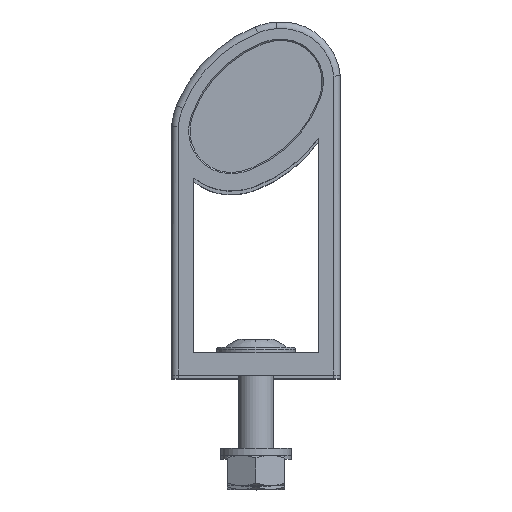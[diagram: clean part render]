
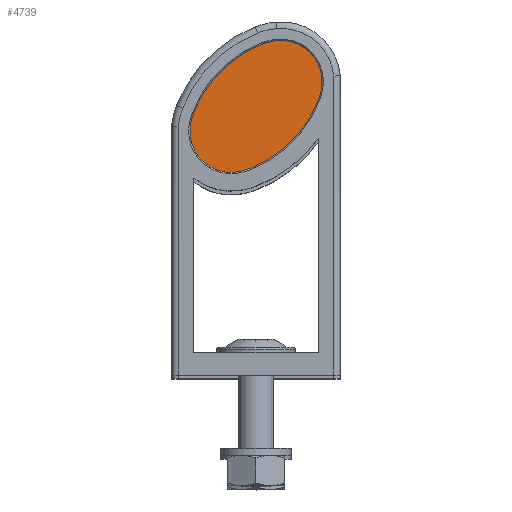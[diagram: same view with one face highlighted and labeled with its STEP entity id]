
A CAD part, top view. The second image highlights one B-rep face of the part: STEP entity #4739.
In plain terms, the highlighted planar face has unit normal (0, 0, 1).
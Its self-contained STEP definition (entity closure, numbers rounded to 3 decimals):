
#249 = DIRECTION ( 'NONE',  ( -1., 0., 0. ) ) ;
#428 = CARTESIAN_POINT ( 'NONE',  ( -4.887, 45.675, 511. ) ) ;
#439 = AXIS2_PLACEMENT_3D ( 'NONE', #2074, #1509, #3894 ) ;
#465 = ORIENTED_EDGE ( 'NONE', *, *, #5969, .F. ) ;
#485 = CARTESIAN_POINT ( 'NONE',  ( -14.825, 55.613, 511. ) ) ;
#656 = CARTESIAN_POINT ( 'NONE',  ( -5.657, 54.843, 511. ) ) ;
#686 = ORIENTED_EDGE ( 'NONE', *, *, #6940, .F. ) ;
#992 = DIRECTION ( 'NONE',  ( 0., 0., -1. ) ) ;
#1166 = AXIS2_PLACEMENT_3D ( 'NONE', #2375, #4736, #7106 ) ;
#1282 = DIRECTION ( 'NONE',  ( -1., 0., 0. ) ) ;
#1509 = DIRECTION ( 'NONE',  ( 0., 0., -1. ) ) ;
#1640 = AXIS2_PLACEMENT_3D ( 'NONE', #6439, #7071, #7609 ) ;
#1711 = VERTEX_POINT ( 'NONE', #4079 ) ;
#1726 = EDGE_LOOP ( 'NONE', ( #5719, #3900, #465, #6904, #4307, #3614, #5375, #6402, #686 ) ) ;
#1917 = CIRCLE ( 'NONE', #2928, 9.2 ) ;
#2053 = CIRCLE ( 'NONE', #5285, 27.2 ) ;
#2067 = EDGE_CURVE ( 'NONE', #7465, #4247, #3310, .T. ) ;
#2074 = CARTESIAN_POINT ( 'NONE',  ( -5.929, 58.082, 511. ) ) ;
#2136 = CARTESIAN_POINT ( 'NONE',  ( -14.857, 54.843, 511. ) ) ;
#2153 = EDGE_CURVE ( 'NONE', #4247, #6903, #1917, .T. ) ;
#2336 = CIRCLE ( 'NONE', #7657, 27.2 ) ;
#2375 = CARTESIAN_POINT ( 'NONE',  ( -2.418, 54.571, 511. ) ) ;
#2456 = CARTESIAN_POINT ( 'NONE',  ( -5.657, 54.843, 511. ) ) ;
#2481 = CARTESIAN_POINT ( 'NONE',  ( 2.418, 66.429, 511. ) ) ;
#2660 = EDGE_CURVE ( 'NONE', #7683, #3699, #6357, .T. ) ;
#2928 = AXIS2_PLACEMENT_3D ( 'NONE', #5951, #5405, #3095 ) ;
#2935 = DIRECTION ( 'NONE',  ( -1., 0., 0. ) ) ;
#3001 = VERTEX_POINT ( 'NONE', #4413 ) ;
#3002 = DIRECTION ( 'NONE',  ( -1., 0., 0. ) ) ;
#3095 = DIRECTION ( 'NONE',  ( -1., 0., 0. ) ) ;
#3133 = EDGE_CURVE ( 'NONE', #3699, #3001, #3424, .T. ) ;
#3295 = DIRECTION ( 'NONE',  ( 0., 0., -1. ) ) ;
#3310 = CIRCLE ( 'NONE', #5895, 12.45 ) ;
#3323 = CIRCLE ( 'NONE', #5516, 12.45 ) ;
#3344 = EDGE_CURVE ( 'NONE', #1711, #3373, #2053, .T. ) ;
#3348 = VERTEX_POINT ( 'NONE', #428 ) ;
#3373 = VERTEX_POINT ( 'NONE', #7536 ) ;
#3424 = CIRCLE ( 'NONE', #1166, 12.45 ) ;
#3592 = DIRECTION ( 'NONE',  ( 0., 0., -1. ) ) ;
#3614 = ORIENTED_EDGE ( 'NONE', *, *, #7640, .F. ) ;
#3662 = CARTESIAN_POINT ( 'NONE',  ( 14.825, 65.387, 511. ) ) ;
#3699 = VERTEX_POINT ( 'NONE', #485 ) ;
#3894 = DIRECTION ( 'NONE',  ( -1., 0., 0. ) ) ;
#3900 = ORIENTED_EDGE ( 'NONE', *, *, #3344, .F. ) ;
#4079 = CARTESIAN_POINT ( 'NONE',  ( 14.009, 61.884, 511. ) ) ;
#4247 = VERTEX_POINT ( 'NONE', #7384 ) ;
#4307 = ORIENTED_EDGE ( 'NONE', *, *, #2067, .F. ) ;
#4357 = PLANE ( 'NONE',  #1640 ) ;
#4413 = CARTESIAN_POINT ( 'NONE',  ( -14.009, 59.116, 511. ) ) ;
#4734 = CARTESIAN_POINT ( 'NONE',  ( 5.929, 62.918, 511. ) ) ;
#4736 = DIRECTION ( 'NONE',  ( 0., 0., -1. ) ) ;
#4739 = ADVANCED_FACE ( 'NONE', ( #7398 ), #4357, .T. ) ;
#4828 = DIRECTION ( 'NONE',  ( 0., 0., -1. ) ) ;
#4964 = DIRECTION ( 'NONE',  ( 0., 0., -1. ) ) ;
#5042 = CIRCLE ( 'NONE', #6393, 9.2 ) ;
#5159 = DIRECTION ( 'NONE',  ( -1., 0., 0. ) ) ;
#5170 = DIRECTION ( 'NONE',  ( 0., 0., -1. ) ) ;
#5285 = AXIS2_PLACEMENT_3D ( 'NONE', #6989, #992, #5159 ) ;
#5375 = ORIENTED_EDGE ( 'NONE', *, *, #3133, .F. ) ;
#5405 = DIRECTION ( 'NONE',  ( 0., 0., -1. ) ) ;
#5516 = AXIS2_PLACEMENT_3D ( 'NONE', #2481, #4828, #1282 ) ;
#5719 = ORIENTED_EDGE ( 'NONE', *, *, #7708, .F. ) ;
#5817 = CARTESIAN_POINT ( 'NONE',  ( 1.384, 74.509, 511. ) ) ;
#5895 = AXIS2_PLACEMENT_3D ( 'NONE', #4734, #5170, #2935 ) ;
#5951 = CARTESIAN_POINT ( 'NONE',  ( 5.657, 66.157, 511. ) ) ;
#5969 = EDGE_CURVE ( 'NONE', #6903, #1711, #3323, .T. ) ;
#6297 = CIRCLE ( 'NONE', #439, 12.45 ) ;
#6357 = CIRCLE ( 'NONE', #7244, 9.2 ) ;
#6393 = AXIS2_PLACEMENT_3D ( 'NONE', #2456, #4964, #7331 ) ;
#6402 = ORIENTED_EDGE ( 'NONE', *, *, #2660, .F. ) ;
#6439 = CARTESIAN_POINT ( 'NONE',  ( -5.793, 56.462, 511. ) ) ;
#6774 = CARTESIAN_POINT ( 'NONE',  ( 11.314, 49.186, 511. ) ) ;
#6903 = VERTEX_POINT ( 'NONE', #3662 ) ;
#6904 = ORIENTED_EDGE ( 'NONE', *, *, #2153, .F. ) ;
#6940 = EDGE_CURVE ( 'NONE', #3348, #7683, #5042, .T. ) ;
#6989 = CARTESIAN_POINT ( 'NONE',  ( -11.314, 71.814, 511. ) ) ;
#7071 = DIRECTION ( 'NONE',  ( 0., 0., 1. ) ) ;
#7106 = DIRECTION ( 'NONE',  ( -1., 0., 0. ) ) ;
#7244 = AXIS2_PLACEMENT_3D ( 'NONE', #656, #3592, #3002 ) ;
#7331 = DIRECTION ( 'NONE',  ( -1., 0., 0. ) ) ;
#7384 = CARTESIAN_POINT ( 'NONE',  ( 4.887, 75.325, 511. ) ) ;
#7398 = FACE_OUTER_BOUND ( 'NONE', #1726, .T. ) ;
#7465 = VERTEX_POINT ( 'NONE', #5817 ) ;
#7536 = CARTESIAN_POINT ( 'NONE',  ( -1.384, 46.491, 511. ) ) ;
#7609 = DIRECTION ( 'NONE',  ( -1., 0., 0. ) ) ;
#7640 = EDGE_CURVE ( 'NONE', #3001, #7465, #2336, .T. ) ;
#7657 = AXIS2_PLACEMENT_3D ( 'NONE', #6774, #3295, #249 ) ;
#7683 = VERTEX_POINT ( 'NONE', #2136 ) ;
#7708 = EDGE_CURVE ( 'NONE', #3373, #3348, #6297, .T. ) ;
